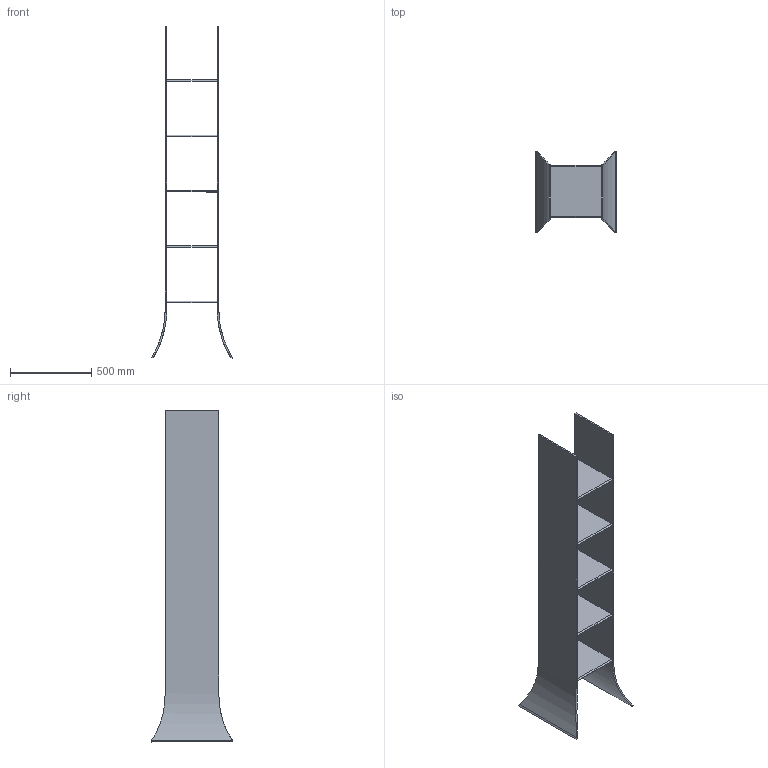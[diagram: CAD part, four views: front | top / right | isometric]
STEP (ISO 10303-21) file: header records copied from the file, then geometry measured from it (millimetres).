
FILE_DESCRIPTION(/* description */ (''),/* implementation_level */ '2;1');
FILE_NAME(/* name */ '06 - Babele 50x50',/* time_stamp */ '2010-11-04T15:53:53+01:00',/* author */ (''),/* organization */ (''),/* preprocessor_version */ 'ST-DEVELOPER v10',/* originating_system */ '',/* authorisation */ '');
FILE_SCHEMA (('CONFIG_CONTROL_DESIGN'));
Length unit declared in the file: centimetre
Products named in the file (1): 1
Bounding box: 499.93 x 500 x 2040.01 mm (x, y, z)
Volume: 18440661.3 mm3; surface area: 3925166.7 mm2
Topology: 7 solids, 7 shells, 54 faces, 120 edges, 80 vertices
Faces by surface type: plane 42, bspline 12
Entity records: 4064 total; most frequent: CARTESIAN_POINT 3100, ORIENTED_EDGE 240, EDGE_CURVE 120, B_SPLINE_CURVE_WITH_KNOTS 120, VERTEX_POINT 80, ADVANCED_FACE 54, FACE_OUTER_BOUND 54, EDGE_LOOP 54
